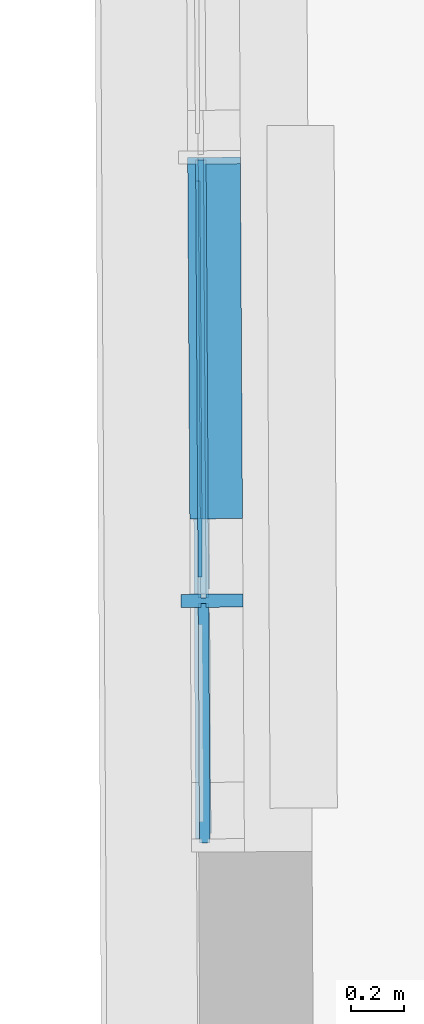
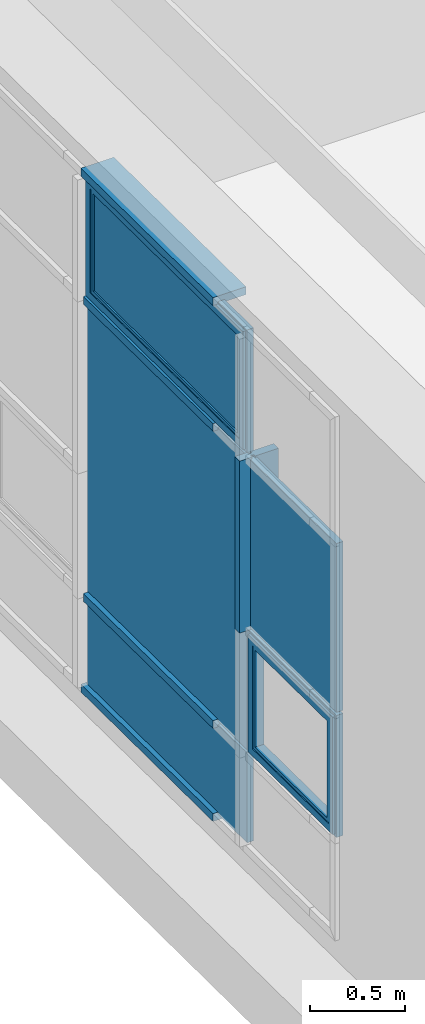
# One storey, part 99 of 158: 11 building element parts, 1 element without a shape of its own.
"""IFC2X3 building model written with IfcOpenShell, lengths in metres."""

from ifc_helpers import new_model, entity, si_unit, converted_unit, derived_unit, money_unit, direction, frame, origin_with_axes, place, context, subcontext, project, spatial, faceted_brep, material, type_object, element, aggregate, save


model = new_model("IFC2X3")

# Units and contexts
model_context = context("Model", 3, precision=1e-05, world=origin_with_axes(), true_north=direction((0.0, 1.0)))
body_context = subcontext(model_context, "Body", "Model", "MODEL_VIEW")
ifc_project = project(units=[si_unit("LENGTHUNIT", "METRE"), si_unit("AREAUNIT", "SQUARE_METRE"), si_unit("VOLUMEUNIT", "CUBIC_METRE"), converted_unit("PLANEANGLEUNIT", "DEGREE", entity("IfcPlaneAngleMeasure", 0.0174532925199), si_unit("PLANEANGLEUNIT", "RADIAN"), dimensions=[0, 0, 0, 0, 0, 0, 0]), money_unit("EUR"), converted_unit("TIMEUNIT", "Year", entity("IfcTimeMeasure", 31556926.0), si_unit("TIMEUNIT", "SECOND"), dimensions=[0, 0, 1, 0, 0, 0, 0]), si_unit("MASSUNIT", "GRAM", prefix="KILO"), si_unit("THERMODYNAMICTEMPERATUREUNIT", "DEGREE_CELSIUS"), si_unit("LUMINOUSINTENSITYUNIT", "LUMEN"), si_unit("ENERGYUNIT", "JOULE", prefix="MEGA"), derived_unit("THERMALCONDUCTANCEUNIT", [(si_unit("POWERUNIT", "WATT"), 1), (si_unit("LENGTHUNIT", "METRE"), -1), (si_unit("THERMODYNAMICTEMPERATUREUNIT", "KELVIN"), -1)]), derived_unit("SPECIFICHEATCAPACITYUNIT", [(si_unit("ENERGYUNIT", "JOULE"), 1), (si_unit("MASSUNIT", "GRAM", prefix="KILO"), -1), (si_unit("THERMODYNAMICTEMPERATUREUNIT", "KELVIN"), -1)]), derived_unit("MASSDENSITYUNIT", [(si_unit("MASSUNIT", "GRAM", prefix="KILO"), 1), (si_unit("VOLUMEUNIT", "CUBIC_METRE"), -1)])], contexts=[model_context])

# Site, building, storey
site_placement = place(None, origin_with_axes())
site = spatial("IfcSite", under=ifc_project, at=site_placement, Name="Gelände", CompositionType="ELEMENT")
building_placement = place(site_placement, origin_with_axes())
building = spatial("IfcBuilding", under=site, at=building_placement, Name="Gebäude", CompositionType="ELEMENT")
storey_placement = place(building_placement, origin_with_axes())
storey = spatial("IfcBuildingStorey", under=building, at=storey_placement, Name="ERDGESCHOSS", CompositionType="ELEMENT", Elevation=0.0)

# Proxy, building element parts
building_element_proxy_type = type_object("IfcBuildingElementProxyType", Name="Fassadentyp", PredefinedType="NOTDEFINED")
proxy_placement = place(storey_placement, frame((-34.889376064, 47.589579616, 1.34043902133), z_axis=(0.0, 0.0, 1.0), x_axis=(1.0, 0.0, 0.0)))
proxy = element("IfcBuildingElementProxy", 1, at=proxy_placement, inside=storey, type_object=building_element_proxy_type, Name="Fassade-002")
ifc_material_1 = material(Name="45_Glas, Normalglas")
building_element_part_1_placement = place(proxy_placement, origin_with_axes())
building_element_part_1 = element("IfcBuildingElementPart", 2, at=building_element_part_1_placement, material=ifc_material_1, Name="45_Glas, Normalglas", context=body_context, shape_type="Brep", body=[
    faceted_brep([(0.0167297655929, 0.557660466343, 2.51000004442), (0.0149652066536, 0.858532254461, 2.51000004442), (-0.0250341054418, 0.858297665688, 2.51000004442), (-0.0232695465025, 0.557425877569, 2.51000004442), (0.0167297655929, 0.557660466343, 1.42000004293), (0.0167297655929, 0.557660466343, 0.630000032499), (0.0149652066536, 0.858532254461, 0.630000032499), (0.00698031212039, 2.22002233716, 0.630000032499), (0.00698031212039, 2.22002233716, 1.42000004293), (0.00698031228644, 2.22002230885, 2.51000004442), (-0.033018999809, 2.21978772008, 2.51000004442), (-0.033018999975, 2.21978774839, 1.42000004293), (-0.033018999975, 2.21978774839, 0.630000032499), (-0.0250341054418, 0.858297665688, 0.630000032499), (-0.0232695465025, 0.557425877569, 0.630000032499), (-0.0232695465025, 0.557425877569, 1.42000004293)], [[[0, 1, 2, 3]], [[0, 4, 5, 6, 7, 8, 9, 1]], [[1, 9, 10, 2]], [[3, 2, 10, 11, 12, 13, 14, 15]], [[4, 0, 3, 15]], [[5, 4, 15, 14]], [[6, 5, 14, 13]], [[7, 6, 13, 12]], [[8, 7, 12, 11]], [[9, 8, 11, 10]]]),
])
building_element_part_2_placement = place(proxy_placement, origin_with_axes())
building_element_part_2 = element("IfcBuildingElementPart", 3, at=building_element_part_2_placement, material=ifc_material_1, Name="45_Glas, Normalglas", context=body_context, shape_type="Brep", body=[
    faceted_brep([(0.0167297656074, 0.557660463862, 0.610000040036), (0.0149652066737, 0.858532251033, 0.610000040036), (-0.0250341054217, 0.858297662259, 0.610000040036), (-0.023269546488, 0.557425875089, 0.610000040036), (0.0167297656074, 0.557660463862, 0.0349999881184), (0.0149652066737, 0.858532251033, 0.0349999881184), (0.00698031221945, 2.22002232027, 0.0349999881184), (0.00698031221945, 2.22002232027, 0.610000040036), (-0.033018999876, 2.2197877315, 0.610000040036), (-0.033018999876, 2.2197877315, 0.0349999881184), (-0.0250341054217, 0.858297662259, 0.0349999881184), (-0.023269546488, 0.557425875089, 0.0349999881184)], [[[0, 1, 2, 3]], [[0, 4, 5, 6, 7, 1]], [[1, 7, 8, 2]], [[3, 2, 8, 9, 10, 11]], [[4, 0, 3, 11]], [[5, 4, 11, 10]], [[6, 5, 10, 9]], [[7, 6, 9, 8]]]),
])
ifc_material_2 = material(Name="53_Metall, Aluminium")
building_element_part_3_placement = place(proxy_placement, origin_with_axes())
building_element_part_3 = element("IfcBuildingElementPart", 4, at=building_element_part_3_placement, material=ifc_material_2, Name="53_Metall, Aluminium", context=body_context, shape_type="Brep", body=[
    faceted_brep([(-0.0330641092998, 0.522367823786, 0.645000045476), (-0.0279117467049, -0.356152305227, 0.645000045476), (-0.0329116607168, -0.356181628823, 0.645000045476), (-0.0380640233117, 0.522338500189, 0.645000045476), (-0.0328001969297, 0.477368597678, 0.690000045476), (-0.0281756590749, -0.311153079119, 0.690000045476), (-0.0331755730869, -0.311182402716, 0.690000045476), (-0.0378001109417, 0.477339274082, 0.690000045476)], [[[0, 1, 2, 3]], [[0, 4, 5, 1]], [[1, 5, 6, 2]], [[3, 2, 6, 7]], [[4, 0, 3, 7]], [[5, 4, 7, 6]]]),
    faceted_brep([(-0.0279117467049, -0.356152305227, 0.645000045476), (-0.0279117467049, -0.356152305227, 1.39500004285), (-0.0329116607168, -0.356181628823, 1.39500004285), (-0.0329116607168, -0.356181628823, 0.645000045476), (-0.0281756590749, -0.311153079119, 0.690000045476), (-0.0281756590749, -0.311153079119, 1.35000004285), (-0.0331755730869, -0.311182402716, 1.35000004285), (-0.0331755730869, -0.311182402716, 0.690000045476)], [[[0, 1, 2, 3]], [[0, 4, 5, 1]], [[1, 5, 6, 2]], [[3, 2, 6, 7]], [[4, 0, 3, 7]], [[5, 4, 7, 6]]]),
    faceted_brep([(-0.0330641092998, 0.522367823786, 1.39500004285), (-0.0328001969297, 0.477368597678, 1.35000004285), (-0.0378001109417, 0.477339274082, 1.35000004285), (-0.0380640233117, 0.522338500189, 1.39500004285), (-0.0279117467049, -0.356152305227, 1.39500004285), (-0.0281756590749, -0.311153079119, 1.35000004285), (-0.0331755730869, -0.311182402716, 1.35000004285), (-0.0329116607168, -0.356181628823, 1.39500004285)], [[[0, 1, 2, 3]], [[0, 4, 5, 1]], [[1, 5, 6, 2]], [[3, 2, 6, 7]], [[4, 0, 3, 7]], [[5, 4, 7, 6]]]),
    faceted_brep([(-0.0330641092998, 0.522367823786, 0.645000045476), (-0.0328001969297, 0.477368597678, 0.690000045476), (-0.0378001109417, 0.477339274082, 0.690000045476), (-0.0380640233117, 0.522338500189, 0.645000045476), (-0.0330641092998, 0.522367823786, 1.39500004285), (-0.0328001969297, 0.477368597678, 1.35000004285), (-0.0378001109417, 0.477339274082, 1.35000004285), (-0.0380640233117, 0.522338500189, 1.39500004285)], [[[0, 1, 2, 3]], [[0, 4, 5, 1]], [[1, 5, 6, 2]], [[3, 2, 6, 7]], [[4, 0, 3, 7]], [[5, 4, 7, 6]]]),
    faceted_brep([(0.0169350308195, 0.522661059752, 0.645000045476), (0.0220873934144, -0.35585906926, 0.645000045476), (-0.0279117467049, -0.356152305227, 0.645000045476), (-0.0330641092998, 0.522367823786, 0.645000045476), (0.0170523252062, 0.502661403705, 0.665000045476), (0.0219700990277, -0.335859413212, 0.665000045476), (-0.0280290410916, -0.336152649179, 0.665000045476), (-0.0329468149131, 0.502368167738, 0.665000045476)], [[[0, 1, 2, 3]], [[0, 4, 5, 1]], [[1, 5, 6, 2]], [[3, 2, 6, 7]], [[4, 0, 3, 7]], [[5, 4, 7, 6]]]),
    faceted_brep([(0.0220873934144, -0.35585906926, 0.645000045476), (0.0220873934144, -0.35585906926, 1.39500004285), (-0.0279117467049, -0.356152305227, 1.39500004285), (-0.0279117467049, -0.356152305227, 0.645000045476), (0.0219700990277, -0.335859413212, 0.665000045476), (0.0219700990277, -0.335859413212, 1.37500004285), (-0.0280290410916, -0.336152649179, 1.37500004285), (-0.0280290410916, -0.336152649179, 0.665000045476)], [[[0, 1, 2, 3]], [[0, 4, 5, 1]], [[1, 5, 6, 2]], [[3, 2, 6, 7]], [[4, 0, 3, 7]], [[5, 4, 7, 6]]]),
    faceted_brep([(0.0169350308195, 0.522661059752, 1.39500004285), (0.0170523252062, 0.502661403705, 1.37500004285), (-0.0329468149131, 0.502368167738, 1.37500004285), (-0.0330641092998, 0.522367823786, 1.39500004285), (0.0220873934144, -0.35585906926, 1.39500004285), (0.0219700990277, -0.335859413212, 1.37500004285), (-0.0280290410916, -0.336152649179, 1.37500004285), (-0.0279117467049, -0.356152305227, 1.39500004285)], [[[0, 1, 2, 3]], [[0, 4, 5, 1]], [[1, 5, 6, 2]], [[3, 2, 6, 7]], [[4, 0, 3, 7]], [[5, 4, 7, 6]]]),
    faceted_brep([(0.0169350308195, 0.522661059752, 0.645000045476), (0.0170523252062, 0.502661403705, 0.665000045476), (-0.0329468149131, 0.502368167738, 0.665000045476), (-0.0330641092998, 0.522367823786, 0.645000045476), (0.0169350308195, 0.522661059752, 1.39500004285), (0.0170523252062, 0.502661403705, 1.37500004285), (-0.0329468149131, 0.502368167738, 1.37500004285), (-0.0330641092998, 0.522367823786, 1.39500004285)], [[[0, 1, 2, 3]], [[0, 4, 5, 1]], [[1, 5, 6, 2]], [[3, 2, 6, 7]], [[4, 0, 3, 7]], [[5, 4, 7, 6]]]),
    faceted_brep([(0.0168470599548, 0.537660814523, 0.630000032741), (0.0221753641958, -0.370858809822, 0.630000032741), (-0.0178239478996, -0.371093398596, 0.630000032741), (-0.0231522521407, 0.53742622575, 0.630000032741), (0.0169350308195, 0.522661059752, 0.645000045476), (0.0220873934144, -0.35585906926, 0.645000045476), (-0.017911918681, -0.356093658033, 0.645000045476), (-0.0230642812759, 0.522426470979, 0.645000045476)], [[[0, 1, 2, 3]], [[0, 4, 5, 1]], [[1, 5, 6, 2]], [[3, 2, 6, 7]], [[4, 0, 3, 7]], [[5, 4, 7, 6]]]),
    faceted_brep([(0.0221753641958, -0.370858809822, 0.630000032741), (0.0221753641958, -0.370858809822, 1.41000004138), (-0.0178239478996, -0.371093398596, 1.41000004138), (-0.0178239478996, -0.371093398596, 0.630000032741), (0.0220873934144, -0.35585906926, 0.645000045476), (0.0220873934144, -0.35585906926, 1.39500004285), (-0.017911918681, -0.356093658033, 1.39500004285), (-0.017911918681, -0.356093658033, 0.645000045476)], [[[0, 1, 2, 3]], [[0, 4, 5, 1]], [[1, 5, 6, 2]], [[3, 2, 6, 7]], [[4, 0, 3, 7]], [[5, 4, 7, 6]]]),
    faceted_brep([(0.0221753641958, -0.370858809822, 1.41000004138), (0.0168470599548, 0.537660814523, 1.41000004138), (-0.0231522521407, 0.53742622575, 1.41000004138), (-0.0178239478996, -0.371093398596, 1.41000004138), (0.0220873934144, -0.35585906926, 1.39500004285), (0.0169350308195, 0.522661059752, 1.39500004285), (-0.0230642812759, 0.522426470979, 1.39500004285), (-0.017911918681, -0.356093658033, 1.39500004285)], [[[0, 1, 2, 3]], [[0, 4, 5, 1]], [[1, 5, 6, 2]], [[3, 2, 6, 7]], [[4, 0, 3, 7]], [[5, 4, 7, 6]]]),
    faceted_brep([(0.0168470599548, 0.537660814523, 1.41000004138), (0.0168470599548, 0.537660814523, 0.630000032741), (-0.0231522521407, 0.53742622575, 0.630000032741), (-0.0231522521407, 0.53742622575, 1.41000004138), (0.0169350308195, 0.522661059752, 1.39500004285), (0.0169350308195, 0.522661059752, 0.645000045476), (-0.0230642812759, 0.522426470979, 0.645000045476), (-0.0230642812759, 0.522426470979, 1.39500004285)], [[[0, 1, 2, 3]], [[0, 4, 5, 1]], [[1, 5, 6, 2]], [[3, 2, 6, 7]], [[4, 0, 3, 7]], [[5, 4, 7, 6]]]),
    faceted_brep([(-0.032682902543, 0.45736894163, 0.710000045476), (0.0223161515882, 0.457691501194, 0.710000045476), (0.0223161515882, 0.457691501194, 1.33000004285), (-0.032682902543, 0.45736894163, 1.33000004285), (-0.0329468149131, 0.502368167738, 0.665000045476), (0.0220522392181, 0.502690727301, 0.665000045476), (0.0220522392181, 0.502690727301, 1.37500004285), (-0.0329468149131, 0.502368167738, 1.37500004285)], [[[0, 1, 2, 3]], [[4, 5, 1, 0]], [[1, 5, 6, 2]], [[3, 2, 6, 7]], [[0, 3, 7, 4]], [[7, 6, 5, 4]]]),
    faceted_brep([(-0.0280290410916, -0.336152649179, 0.665000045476), (0.0269700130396, -0.335830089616, 0.665000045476), (0.0269700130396, -0.335830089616, 1.37500004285), (-0.0280290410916, -0.336152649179, 1.37500004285), (-0.0282929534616, -0.291153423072, 0.710000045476), (0.0267061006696, -0.290830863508, 0.710000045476), (0.0267061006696, -0.290830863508, 1.33000004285), (-0.0282929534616, -0.291153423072, 1.33000004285)], [[[0, 1, 2, 3]], [[4, 5, 1, 0]], [[1, 5, 6, 2]], [[3, 2, 6, 7]], [[0, 3, 7, 4]], [[7, 6, 5, 4]]]),
    faceted_brep([(-0.0280290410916, -0.336152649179, 0.665000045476), (0.0269700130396, -0.335830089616, 0.665000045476), (0.0267061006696, -0.290830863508, 0.710000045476), (-0.0282929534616, -0.291153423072, 0.710000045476), (-0.0329468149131, 0.502368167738, 0.665000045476), (0.0220522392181, 0.502690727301, 0.665000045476), (0.0223161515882, 0.457691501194, 0.710000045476), (-0.032682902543, 0.45736894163, 0.710000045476)], [[[0, 1, 2, 3]], [[4, 5, 1, 0]], [[1, 5, 6, 2]], [[3, 2, 6, 7]], [[0, 3, 7, 4]], [[7, 6, 5, 4]]]),
    faceted_brep([(-0.0329468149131, 0.502368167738, 1.37500004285), (0.0220522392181, 0.502690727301, 1.37500004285), (0.0223161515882, 0.457691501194, 1.33000004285), (-0.032682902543, 0.45736894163, 1.33000004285), (-0.0280290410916, -0.336152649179, 1.37500004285), (0.0269700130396, -0.335830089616, 1.37500004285), (0.0267061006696, -0.290830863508, 1.33000004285), (-0.0282929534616, -0.291153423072, 1.33000004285)], [[[0, 1, 2, 3]], [[4, 5, 1, 0]], [[1, 5, 6, 2]], [[3, 2, 6, 7]], [[0, 3, 7, 4]], [[7, 6, 5, 4]]]),
])
building_element_part_4_placement = place(proxy_placement, origin_with_axes())
building_element_part_4 = element("IfcBuildingElementPart", 5, at=building_element_part_4_placement, material=ifc_material_1, Name="45_Glas, Normalglas", context=body_context, shape_type="Brep", body=[
    faceted_brep([(0.0221753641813, -0.370858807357, 2.51000003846), (0.0208299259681, -0.141450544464, 2.51000003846), (-0.0191693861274, -0.141685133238, 2.51000003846), (-0.0178239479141, -0.37109339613, 2.51000003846), (0.0221753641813, -0.370858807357, 1.43000003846), (0.0208299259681, -0.141450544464, 1.43000003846), (0.0168470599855, 0.537660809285, 1.43000003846), (0.0168470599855, 0.537660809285, 2.51000003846), (-0.0231522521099, 0.537426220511, 2.51000003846), (-0.0231522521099, 0.537426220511, 1.43000003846), (-0.0191693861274, -0.141685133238, 1.43000003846), (-0.0178239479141, -0.37109339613, 1.43000003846)], [[[0, 1, 2, 3]], [[0, 4, 5, 6, 7, 1]], [[1, 7, 8, 2]], [[3, 2, 8, 9, 10, 11]], [[4, 0, 3, 11]], [[5, 4, 11, 10]], [[6, 5, 10, 9]], [[7, 6, 9, 8]]]),
])
building_element_part_5_placement = place(proxy_placement, origin_with_axes())
building_element_part_5 = element("IfcBuildingElementPart", 6, at=building_element_part_5_placement, material=ifc_material_2, Name="53_Metall, Aluminium", context=body_context, shape_type="Brep", body=[
    faceted_brep([(-0.0429308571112, 2.20472934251, 2.5450000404), (-0.0333573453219, 0.572366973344, 2.5450000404), (-0.0383572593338, 0.572337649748, 2.5450000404), (-0.0479307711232, 2.20470001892, 2.5450000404), (-0.0426669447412, 2.15973011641, 2.5900000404), (-0.033621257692, 0.617366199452, 2.5900000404), (-0.0386211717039, 0.617336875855, 2.5900000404), (-0.0476668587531, 2.15970079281, 2.5900000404)], [[[0, 1, 2, 3]], [[0, 4, 5, 1]], [[1, 5, 6, 2]], [[3, 2, 6, 7]], [[4, 0, 3, 7]], [[5, 4, 7, 6]]]),
    faceted_brep([(-0.0333573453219, 0.572366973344, 2.5450000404), (-0.0333573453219, 0.572366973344, 3.29999990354), (-0.0383572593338, 0.572337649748, 3.29999990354), (-0.0383572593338, 0.572337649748, 2.5450000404), (-0.033621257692, 0.617366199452, 2.5900000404), (-0.033621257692, 0.617366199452, 3.25499990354), (-0.0386211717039, 0.617336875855, 3.25499990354), (-0.0386211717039, 0.617336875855, 2.5900000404)], [[[0, 1, 2, 3]], [[0, 4, 5, 1]], [[1, 5, 6, 2]], [[3, 2, 6, 7]], [[4, 0, 3, 7]], [[5, 4, 7, 6]]]),
    faceted_brep([(-0.0429308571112, 2.20472934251, 3.29999990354), (-0.0426669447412, 2.15973011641, 3.25499990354), (-0.0476668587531, 2.15970079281, 3.25499990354), (-0.0479307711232, 2.20470001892, 3.29999990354), (-0.0333573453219, 0.572366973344, 3.29999990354), (-0.033621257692, 0.617366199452, 3.25499990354), (-0.0386211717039, 0.617336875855, 3.25499990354), (-0.0383572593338, 0.572337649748, 3.29999990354)], [[[0, 1, 2, 3]], [[0, 4, 5, 1]], [[1, 5, 6, 2]], [[3, 2, 6, 7]], [[4, 0, 3, 7]], [[5, 4, 7, 6]]]),
    faceted_brep([(-0.0429308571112, 2.20472934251, 2.5450000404), (-0.0426669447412, 2.15973011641, 2.5900000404), (-0.0476668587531, 2.15970079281, 2.5900000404), (-0.0479307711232, 2.20470001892, 2.5450000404), (-0.0429308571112, 2.20472934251, 3.29999990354), (-0.0426669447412, 2.15973011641, 3.25499990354), (-0.0476668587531, 2.15970079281, 3.25499990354), (-0.0479307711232, 2.20470001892, 3.29999990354)], [[[0, 1, 2, 3]], [[0, 4, 5, 1]], [[1, 5, 6, 2]], [[3, 2, 6, 7]], [[4, 0, 3, 7]], [[5, 4, 7, 6]]]),
    faceted_brep([(0.00706828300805, 2.20502257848, 2.5450000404), (0.0166417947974, 0.572660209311, 2.5450000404), (-0.0333573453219, 0.572366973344, 2.5450000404), (-0.0429308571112, 2.20472934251, 2.5450000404), (0.00718557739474, 2.18502292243, 2.5650000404), (0.0165245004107, 0.592659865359, 2.5650000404), (-0.0334746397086, 0.592366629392, 2.5650000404), (-0.0428135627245, 2.18472968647, 2.5650000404)], [[[0, 1, 2, 3]], [[0, 4, 5, 1]], [[1, 5, 6, 2]], [[3, 2, 6, 7]], [[4, 0, 3, 7]], [[5, 4, 7, 6]]]),
    faceted_brep([(0.0166417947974, 0.572660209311, 2.5450000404), (0.0166417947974, 0.572660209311, 3.29999990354), (-0.0333573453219, 0.572366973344, 3.29999990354), (-0.0333573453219, 0.572366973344, 2.5450000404), (0.0165245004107, 0.592659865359, 2.5650000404), (0.0165245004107, 0.592659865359, 3.27999990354), (-0.0334746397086, 0.592366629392, 3.27999990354), (-0.0334746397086, 0.592366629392, 2.5650000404)], [[[0, 1, 2, 3]], [[0, 4, 5, 1]], [[1, 5, 6, 2]], [[3, 2, 6, 7]], [[4, 0, 3, 7]], [[5, 4, 7, 6]]]),
    faceted_brep([(0.00706828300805, 2.20502257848, 3.29999990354), (0.00718557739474, 2.18502292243, 3.27999990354), (-0.0428135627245, 2.18472968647, 3.27999990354), (-0.0429308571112, 2.20472934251, 3.29999990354), (0.0166417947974, 0.572660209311, 3.29999990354), (0.0165245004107, 0.592659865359, 3.27999990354), (-0.0334746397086, 0.592366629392, 3.27999990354), (-0.0333573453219, 0.572366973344, 3.29999990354)], [[[0, 1, 2, 3]], [[0, 4, 5, 1]], [[1, 5, 6, 2]], [[3, 2, 6, 7]], [[4, 0, 3, 7]], [[5, 4, 7, 6]]]),
    faceted_brep([(0.00706828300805, 2.20502257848, 2.5450000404), (0.00718557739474, 2.18502292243, 2.5650000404), (-0.0428135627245, 2.18472968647, 2.5650000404), (-0.0429308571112, 2.20472934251, 2.5450000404), (0.00706828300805, 2.20502257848, 3.29999990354), (0.00718557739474, 2.18502292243, 3.27999990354), (-0.0428135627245, 2.18472968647, 3.27999990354), (-0.0429308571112, 2.20472934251, 3.29999990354)], [[[0, 1, 2, 3]], [[0, 4, 5, 1]], [[1, 5, 6, 2]], [[3, 2, 6, 7]], [[4, 0, 3, 7]], [[5, 4, 7, 6]]]),
    faceted_brep([(0.00698031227, 2.22002231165, 2.53000004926), (0.0167297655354, 0.557660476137, 2.53000004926), (-0.02326954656, 0.557425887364, 2.53000004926), (-0.0330189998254, 2.21978772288, 2.53000004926), (0.00706828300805, 2.20502257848, 2.5450000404), (0.0166417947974, 0.572660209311, 2.5450000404), (-0.023357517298, 0.572425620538, 2.5450000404), (-0.0329310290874, 2.20478798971, 2.5450000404)], [[[0, 1, 2, 3]], [[0, 4, 5, 1]], [[1, 5, 6, 2]], [[3, 2, 6, 7]], [[4, 0, 3, 7]], [[5, 4, 7, 6]]]),
    faceted_brep([(0.0167297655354, 0.557660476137, 2.53000004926), (0.0167297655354, 0.557660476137, 3.31499991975), (-0.02326954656, 0.557425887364, 3.31499991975), (-0.02326954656, 0.557425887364, 2.53000004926), (0.0166417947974, 0.572660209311, 2.5450000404), (0.0166417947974, 0.572660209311, 3.29999990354), (-0.023357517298, 0.572425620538, 3.29999990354), (-0.023357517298, 0.572425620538, 2.5450000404)], [[[0, 1, 2, 3]], [[0, 4, 5, 1]], [[1, 5, 6, 2]], [[3, 2, 6, 7]], [[4, 0, 3, 7]], [[5, 4, 7, 6]]]),
    faceted_brep([(0.0167297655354, 0.557660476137, 3.31499991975), (0.00698031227, 2.22002231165, 3.31499991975), (-0.0330189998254, 2.21978772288, 3.31499991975), (-0.02326954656, 0.557425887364, 3.31499991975), (0.0166417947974, 0.572660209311, 3.29999990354), (0.00706828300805, 2.20502257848, 3.29999990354), (-0.0329310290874, 2.20478798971, 3.29999990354), (-0.023357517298, 0.572425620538, 3.29999990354)], [[[0, 1, 2, 3]], [[0, 4, 5, 1]], [[1, 5, 6, 2]], [[3, 2, 6, 7]], [[4, 0, 3, 7]], [[5, 4, 7, 6]]]),
    faceted_brep([(0.00698031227, 2.22002231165, 3.31499991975), (0.00698031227, 2.22002231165, 2.53000004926), (-0.0330189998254, 2.21978772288, 2.53000004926), (-0.0330189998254, 2.21978772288, 3.31499991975), (0.00706828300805, 2.20502257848, 3.29999990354), (0.00706828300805, 2.20502257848, 2.5450000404), (-0.0329310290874, 2.20478798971, 2.5450000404), (-0.0329310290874, 2.20478798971, 3.29999990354)], [[[0, 1, 2, 3]], [[0, 4, 5, 1]], [[1, 5, 6, 2]], [[3, 2, 6, 7]], [[4, 0, 3, 7]], [[5, 4, 7, 6]]]),
    faceted_brep([(-0.0425496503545, 2.13973046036, 2.6100000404), (0.0124494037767, 2.14005301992, 2.6100000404), (0.0124494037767, 2.14005301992, 3.23499990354), (-0.0425496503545, 2.13973046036, 3.23499990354), (-0.0428135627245, 2.18472968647, 2.5650000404), (0.0121854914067, 2.18505224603, 2.5650000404), (0.0121854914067, 2.18505224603, 3.27999990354), (-0.0428135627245, 2.18472968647, 3.27999990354)], [[[0, 1, 2, 3]], [[4, 5, 1, 0]], [[1, 5, 6, 2]], [[3, 2, 6, 7]], [[0, 3, 7, 4]], [[7, 6, 5, 4]]]),
    faceted_brep([(-0.0334746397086, 0.592366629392, 2.5650000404), (0.0215244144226, 0.592689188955, 2.5650000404), (0.0215244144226, 0.592689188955, 3.27999990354), (-0.0334746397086, 0.592366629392, 3.27999990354), (-0.0337385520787, 0.637365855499, 2.6100000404), (0.0212605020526, 0.637688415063, 2.6100000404), (0.0212605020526, 0.637688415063, 3.23499990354), (-0.0337385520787, 0.637365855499, 3.23499990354)], [[[0, 1, 2, 3]], [[4, 5, 1, 0]], [[1, 5, 6, 2]], [[3, 2, 6, 7]], [[0, 3, 7, 4]], [[7, 6, 5, 4]]]),
    faceted_brep([(-0.0334746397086, 0.592366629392, 2.5650000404), (0.0215244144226, 0.592689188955, 2.5650000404), (0.0212605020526, 0.637688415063, 2.6100000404), (-0.0337385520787, 0.637365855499, 2.6100000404), (-0.0428135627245, 2.18472968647, 2.5650000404), (0.0121854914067, 2.18505224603, 2.5650000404), (0.0124494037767, 2.14005301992, 2.6100000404), (-0.0425496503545, 2.13973046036, 2.6100000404)], [[[0, 1, 2, 3]], [[4, 5, 1, 0]], [[1, 5, 6, 2]], [[3, 2, 6, 7]], [[0, 3, 7, 4]], [[7, 6, 5, 4]]]),
    faceted_brep([(-0.0428135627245, 2.18472968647, 3.27999990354), (0.0121854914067, 2.18505224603, 3.27999990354), (0.0124494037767, 2.14005301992, 3.23499990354), (-0.0425496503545, 2.13973046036, 3.23499990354), (-0.0334746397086, 0.592366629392, 3.27999990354), (0.0215244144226, 0.592689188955, 3.27999990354), (0.0212605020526, 0.637688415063, 3.23499990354), (-0.0337385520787, 0.637365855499, 3.23499990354)], [[[0, 1, 2, 3]], [[4, 5, 1, 0]], [[1, 5, 6, 2]], [[3, 2, 6, 7]], [[0, 3, 7, 4]], [[7, 6, 5, 4]]]),
])
building_element_part_6_placement = place(proxy_placement, origin_with_axes())
building_element_part_6 = element("IfcBuildingElementPart", 7, at=building_element_part_6_placement, material=ifc_material_1, Name="45_Glas, Normalglas", context=body_context, shape_type="Brep", body=[
    faceted_brep([(-0.0325498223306, 2.13978910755, 2.6100000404), (-0.0165500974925, 2.13988294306, 2.6100000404), (-0.00773899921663, 0.637518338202, 2.6100000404), (-0.0237387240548, 0.637424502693, 2.6100000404), (-0.0325498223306, 2.13978910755, 3.23499990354), (-0.0165500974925, 2.13988294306, 3.23499990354), (-0.00773899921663, 0.637518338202, 3.23499990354), (-0.0237387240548, 0.637424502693, 3.23499990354)], [[[0, 1, 2, 3]], [[4, 5, 1, 0]], [[1, 5, 6, 2]], [[3, 2, 6, 7]], [[0, 3, 7, 4]], [[7, 6, 5, 4]]]),
])
building_element_part_7_placement = place(proxy_placement, origin_with_axes())
building_element_part_7 = element("IfcBuildingElementPart", 8, at=building_element_part_7_placement, material=ifc_material_2, Name="53_Metall, Aluminium", context=body_context, shape_type="Brep", body=[
    faceted_brep([(0.00496537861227, 0.858473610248, 2.51000003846), (0.00496537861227, 0.858473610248, 2.49500003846), (0.144962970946, 0.859294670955, 2.49500003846), (0.144962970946, 0.859294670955, 2.54500003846), (0.00496537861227, 0.858473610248, 2.54500003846), (0.00496537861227, 0.858473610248, 2.53000003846), (-0.0150342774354, 0.858356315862, 2.53000003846), (-0.0150342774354, 0.858356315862, 2.54500003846), (-0.0550335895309, 0.858121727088, 2.54500003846), (-0.0550335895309, 0.858121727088, 2.49500003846), (-0.0150342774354, 0.858356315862, 2.49500003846), (-0.0150342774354, 0.858356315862, 2.51000003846), (-0.00293154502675, 2.20496393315, 2.51000003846), (-0.00293154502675, 2.20496393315, 2.49500003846), (0.137066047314, 2.20578499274, 2.49500003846), (0.137066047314, 2.20578499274, 2.54500003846), (-0.00293154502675, 2.20496393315, 2.54500003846), (-0.00293154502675, 2.20496393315, 2.53000003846), (-0.0229312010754, 2.20484663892, 2.53000003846), (-0.0229312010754, 2.20484663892, 2.54500003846), (-0.0629305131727, 2.20461205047, 2.54500003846), (-0.0629305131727, 2.20461205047, 2.49500003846), (-0.0229312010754, 2.20484663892, 2.49500003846), (-0.0229312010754, 2.20484663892, 2.51000003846)], [[[0, 1, 2, 3, 4, 5, 6, 7, 8, 9, 10, 11]], [[1, 0, 12, 13]], [[1, 13, 14, 2]], [[2, 14, 15, 3]], [[4, 3, 15, 16]], [[4, 16, 17, 5]], [[5, 17, 18, 6]], [[7, 6, 18, 19]], [[19, 20, 8, 7]], [[8, 20, 21, 9]], [[22, 10, 9, 21]], [[11, 10, 22, 23]], [[0, 11, 23, 12]], [[23, 22, 21, 20, 19, 18, 17, 16, 15, 14, 13, 12]]]),
])
building_element_part_8_placement = place(proxy_placement, origin_with_axes())
building_element_part_8 = element("IfcBuildingElementPart", 9, at=building_element_part_8_placement, material=ifc_material_2, Name="53_Metall, Aluminium", context=body_context, shape_type="Brep", body=[
    faceted_brep([(0.00496537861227, 0.858473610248, 0.035), (-0.0150342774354, 0.858356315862, 0.035), (-0.0150342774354, 0.858356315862, 0.05), (-0.0550335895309, 0.858121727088, 0.05), (-0.0550335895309, 0.858121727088, 0.0), (0.144962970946, 0.859294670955, 0.0), (0.144962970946, 0.859294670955, 0.05), (0.00496537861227, 0.858473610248, 0.05), (-0.00307816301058, 2.22996350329, 0.035), (-0.0230778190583, 2.2298462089, 0.035), (-0.0230778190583, 2.2298462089, 0.05), (-0.0630771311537, 2.22961162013, 0.05), (-0.0630771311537, 2.22961162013, 0.0), (0.136919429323, 2.230784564, 0.0), (0.136919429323, 2.230784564, 0.05), (-0.00307816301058, 2.22996350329, 0.05)], [[[0, 1, 2, 3, 4, 5, 6, 7]], [[1, 0, 8, 9]], [[10, 2, 1, 9]], [[2, 10, 11, 3]], [[12, 4, 3, 11]], [[13, 5, 4, 12]], [[14, 6, 5, 13]], [[15, 7, 6, 14]], [[0, 7, 15, 8]], [[8, 15, 14, 13, 12, 11, 10, 9]]]),
])
building_element_part_9_placement = place(proxy_placement, origin_with_axes())
building_element_part_9 = element("IfcBuildingElementPart", 10, at=building_element_part_9_placement, material=ifc_material_2, Name="53_Metall, Aluminium", context=body_context, shape_type="Brep", body=[
    faceted_brep([(0.00496537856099, 0.858473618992, 0.610000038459), (0.00496537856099, 0.858473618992, 0.595000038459), (0.144962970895, 0.859294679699, 0.595000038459), (0.144962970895, 0.859294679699, 0.645000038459), (0.00496537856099, 0.858473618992, 0.645000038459), (0.00496537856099, 0.858473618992, 0.630000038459), (-0.0150342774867, 0.858356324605, 0.630000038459), (-0.0150342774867, 0.858356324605, 0.645000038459), (-0.0550335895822, 0.858121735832, 0.645000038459), (-0.0550335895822, 0.858121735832, 0.595000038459), (-0.0150342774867, 0.858356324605, 0.595000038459), (-0.0150342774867, 0.858356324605, 0.610000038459), (-0.00293154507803, 2.20496394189, 0.610000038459), (-0.00293154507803, 2.20496394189, 0.595000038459), (0.137066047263, 2.20578500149, 0.595000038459), (0.137066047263, 2.20578500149, 0.645000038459), (-0.00293154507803, 2.20496394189, 0.645000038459), (-0.00293154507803, 2.20496394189, 0.630000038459), (-0.0229312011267, 2.20484664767, 0.630000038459), (-0.0229312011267, 2.20484664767, 0.645000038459), (-0.062930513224, 2.20461205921, 0.645000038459), (-0.062930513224, 2.20461205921, 0.595000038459), (-0.0229312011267, 2.20484664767, 0.595000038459), (-0.0229312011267, 2.20484664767, 0.610000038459)], [[[0, 1, 2, 3, 4, 5, 6, 7, 8, 9, 10, 11]], [[1, 0, 12, 13]], [[1, 13, 14, 2]], [[2, 14, 15, 3]], [[4, 3, 15, 16]], [[4, 16, 17, 5]], [[5, 17, 18, 6]], [[7, 6, 18, 19]], [[19, 20, 8, 7]], [[8, 20, 21, 9]], [[22, 10, 9, 21]], [[11, 10, 22, 23]], [[0, 11, 23, 12]], [[23, 22, 21, 20, 19, 18, 17, 16, 15, 14, 13, 12]]]),
])
building_element_part_10_placement = place(proxy_placement, origin_with_axes())
building_element_part_10 = element("IfcBuildingElementPart", 11, at=building_element_part_10_placement, material=ifc_material_2, Name="53_Metall, Aluminium", context=body_context, shape_type="Brep", body=[
    faceted_brep([(0.00684723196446, 0.537602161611, 2.52000003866), (0.00693520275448, 0.522602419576, 2.52000003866), (0.146932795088, 0.523423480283, 2.52000003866), (0.146639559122, 0.573422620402, 2.52000003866), (0.00664196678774, 0.572601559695, 2.52000003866), (0.00672993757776, 0.557601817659, 2.52000003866), (-0.01326971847, 0.557484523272, 2.52000003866), (-0.01335768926, 0.572484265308, 2.52000003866), (-0.0883563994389, 0.572044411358, 2.52000003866), (-0.0880631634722, 0.522045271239, 2.52000003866), (-0.0130644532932, 0.522485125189, 2.52000003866), (-0.0131524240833, 0.537484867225, 2.52000003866), (0.00684723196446, 0.537602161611, 1.42000003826), (0.00693520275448, 0.522602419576, 1.42000003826), (0.146932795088, 0.523423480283, 1.42000003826), (0.146639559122, 0.573422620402, 1.42000003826), (0.00664196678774, 0.572601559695, 1.42000003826), (0.00672993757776, 0.557601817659, 1.42000003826), (-0.01326971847, 0.557484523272, 1.42000003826), (-0.01335768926, 0.572484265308, 1.42000003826), (-0.0883563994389, 0.572044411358, 1.42000003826), (-0.0880631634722, 0.522045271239, 1.42000003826), (-0.0130644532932, 0.522485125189, 1.42000003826), (-0.0131524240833, 0.537484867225, 1.42000003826)], [[[0, 1, 2, 3, 4, 5, 6, 7, 8, 9, 10, 11]], [[1, 0, 12, 13]], [[1, 13, 14, 2]], [[3, 2, 14, 15]], [[4, 3, 15, 16]], [[4, 16, 17, 5]], [[5, 17, 18, 6]], [[7, 6, 18, 19]], [[19, 20, 8, 7]], [[9, 8, 20, 21]], [[22, 10, 9, 21]], [[11, 10, 22, 23]], [[0, 11, 23, 12]], [[23, 22, 21, 20, 19, 18, 17, 16, 15, 14, 13, 12]]]),
])
building_element_part_11_placement = place(proxy_placement, origin_with_axes())
building_element_part_11 = element("IfcBuildingElementPart", 12, at=building_element_part_11_placement, material=ifc_material_2, Name="53_Metall, Aluminium", context=body_context, shape_type="Brep", body=[
    faceted_brep([(0.00496537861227, 0.858473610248, 3.31499990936), (0.00496537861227, 0.858473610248, 3.29999990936), (0.144962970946, 0.859294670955, 3.29999990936), (0.144962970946, 0.859294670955, 3.34999990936), (-0.0550335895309, 0.858121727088, 3.34999990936), (-0.0550335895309, 0.858121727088, 3.29999990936), (-0.0150342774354, 0.858356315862, 3.29999990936), (-0.0150342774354, 0.858356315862, 3.31499990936), (-0.00307816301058, 2.22996350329, 3.31499990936), (-0.00307816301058, 2.22996350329, 3.29999990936), (0.136919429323, 2.230784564, 3.29999990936), (0.136919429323, 2.230784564, 3.34999990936), (-0.0630771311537, 2.22961162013, 3.34999990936), (-0.0630771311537, 2.22961162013, 3.29999990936), (-0.0230778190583, 2.2298462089, 3.29999990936), (-0.0230778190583, 2.2298462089, 3.31499990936)], [[[0, 1, 2, 3, 4, 5, 6, 7]], [[0, 8, 9, 1]], [[9, 10, 2, 1]], [[10, 11, 3, 2]], [[11, 12, 4, 3]], [[12, 13, 5, 4]], [[6, 5, 13, 14]], [[14, 15, 7, 6]], [[7, 15, 8, 0]], [[8, 15, 14, 13, 12, 11, 10, 9]]]),
])
aggregate(proxy, [building_element_part_1, building_element_part_2, building_element_part_3, building_element_part_4, building_element_part_5, building_element_part_6, building_element_part_7, building_element_part_8, building_element_part_9, building_element_part_10, building_element_part_11])

save(model, "model.ifc")
